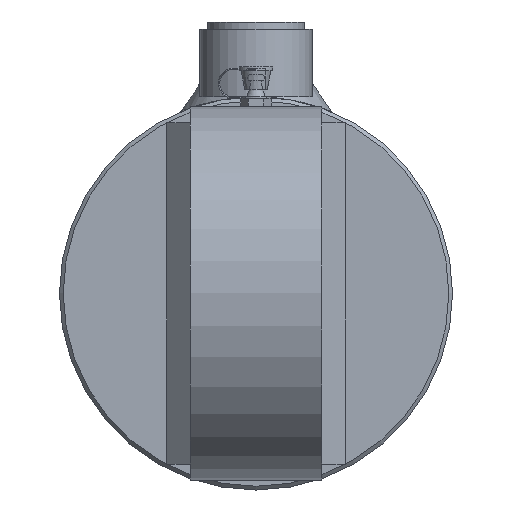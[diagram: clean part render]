
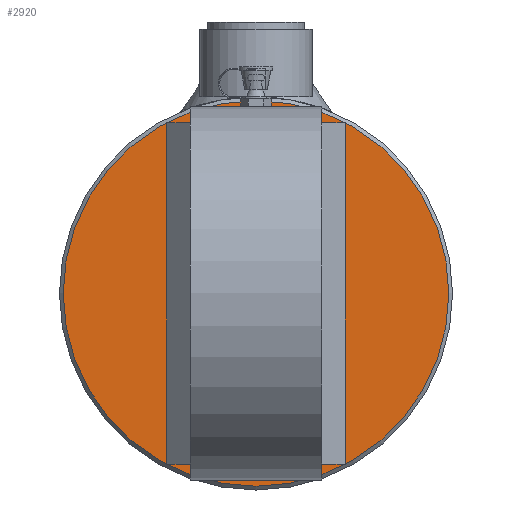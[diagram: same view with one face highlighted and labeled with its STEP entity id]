
A CAD part, left-side view. The second image highlights one B-rep face of the part: STEP entity #2920.
In plain terms, the highlighted planar face has unit normal (-1, 0, 0).
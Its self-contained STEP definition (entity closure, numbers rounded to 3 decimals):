
#2920 = ADVANCED_FACE( '', ( #6214 ), #6215, .T. );
#6214 = FACE_OUTER_BOUND( '', #8100, .T. );
#6215 = PLANE( '', #8101 );
#8100 = EDGE_LOOP( '', ( #8935 ) );
#8101 = AXIS2_PLACEMENT_3D( '', #8936, #8937, #8938 );
#8935 = ORIENTED_EDGE( '', *, *, #10049, .T. );
#8936 = CARTESIAN_POINT( '', ( -15., 0., 0. ) );
#8937 = DIRECTION( '', ( -1., 0., 0. ) );
#8938 = DIRECTION( '', ( 0., -1., 0. ) );
#10049 = EDGE_CURVE( '', #12407, #12407, #12408, .T. );
#12407 = VERTEX_POINT( '', #13389 );
#12408 = CIRCLE( '', #13390, 51.5 );
#13389 = CARTESIAN_POINT( '', ( -15., -51.5, 0. ) );
#13390 = AXIS2_PLACEMENT_3D( '', #13567, #13568, #13569 );
#13567 = CARTESIAN_POINT( '', ( -15., 0., 0. ) );
#13568 = DIRECTION( '', ( -1., 0., 0. ) );
#13569 = DIRECTION( '', ( 0., -1., 0. ) );
